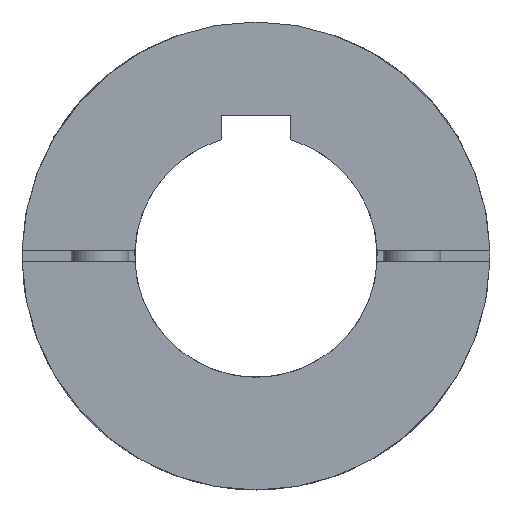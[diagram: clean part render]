
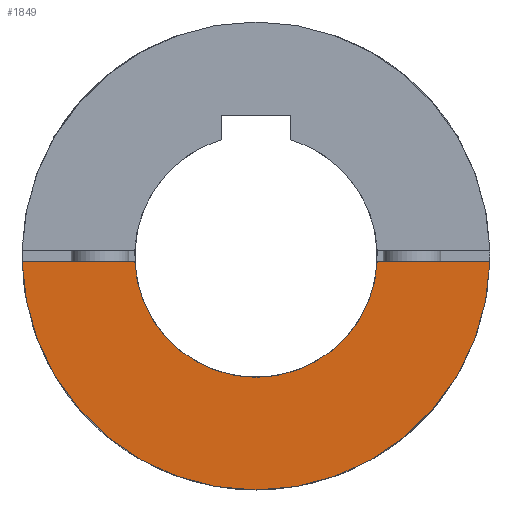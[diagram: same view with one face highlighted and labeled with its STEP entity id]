
A CAD part, left-side view. The second image highlights one B-rep face of the part: STEP entity #1849.
In plain terms, the highlighted planar face has unit normal (-1, 0, 0).
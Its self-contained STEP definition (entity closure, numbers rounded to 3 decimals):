
#33=PLANE('',#2087);
#193=LINE('',#3371,#336);
#203=LINE('',#3395,#346);
#336=VECTOR('',#2499,31.04);
#346=VECTOR('',#2527,31.04);
#504=FACE_OUTER_BOUND('',#631,.T.);
#631=EDGE_LOOP('',(#1544,#1545,#1546,#1547));
#810=CIRCLE('',#2063,21.);
#814=CIRCLE('',#2086,40.5);
#928=VERTEX_POINT('',#3323);
#929=VERTEX_POINT('',#3324);
#941=VERTEX_POINT('',#3369);
#946=VERTEX_POINT('',#3394);
#1141=EDGE_CURVE('',#928,#929,#810,.T.);
#1166=EDGE_CURVE('',#941,#929,#193,.T.);
#1178=EDGE_CURVE('',#946,#928,#203,.T.);
#1183=EDGE_CURVE('',#941,#946,#814,.T.);
#1544=ORIENTED_EDGE('',*,*,#1141,.T.);
#1545=ORIENTED_EDGE('',*,*,#1166,.F.);
#1546=ORIENTED_EDGE('',*,*,#1183,.T.);
#1547=ORIENTED_EDGE('',*,*,#1178,.T.);
#1849=ADVANCED_FACE('',(#504),#33,.T.);
#2063=AXIS2_PLACEMENT_3D('',#3325,#2454,#2455);
#2086=AXIS2_PLACEMENT_3D('',#3404,#2538,#2539);
#2087=AXIS2_PLACEMENT_3D('',#3405,#2540,#2541);
#2454=DIRECTION('center_axis',(1.,0.,0.));
#2455=DIRECTION('ref_axis',(0.,0.,1.));
#2499=DIRECTION('',(0.,-1.,0.));
#2527=DIRECTION('',(0.,1.,0.));
#2538=DIRECTION('center_axis',(-1.,0.,0.));
#2539=DIRECTION('ref_axis',(0.,1.,0.));
#2540=DIRECTION('center_axis',(-1.,0.,0.));
#2541=DIRECTION('ref_axis',(0.,-1.,0.));
#3323=CARTESIAN_POINT('',(0.,-20.976,-1.));
#3324=CARTESIAN_POINT('',(0.,20.976,-1.));
#3325=CARTESIAN_POINT('Origin',(0.,0.,0.));
#3369=CARTESIAN_POINT('',(0.,40.488,-1.));
#3371=CARTESIAN_POINT('',(0.,40.488,-1.));
#3394=CARTESIAN_POINT('',(0.,-40.488,-1.));
#3395=CARTESIAN_POINT('',(0.,-40.488,-1.));
#3404=CARTESIAN_POINT('Origin',(0.,0.,0.));
#3405=CARTESIAN_POINT('Origin',(0.,0.,-9.5));
